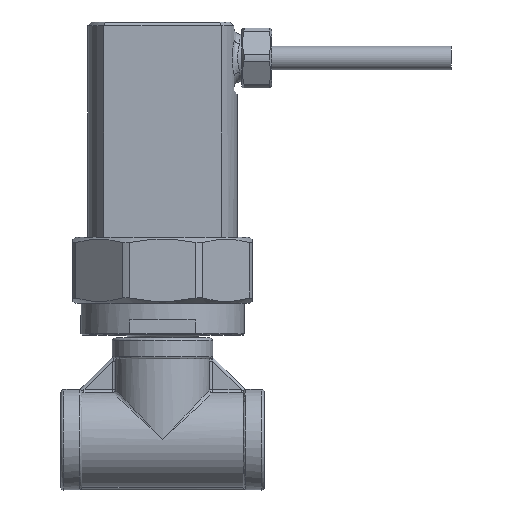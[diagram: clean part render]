
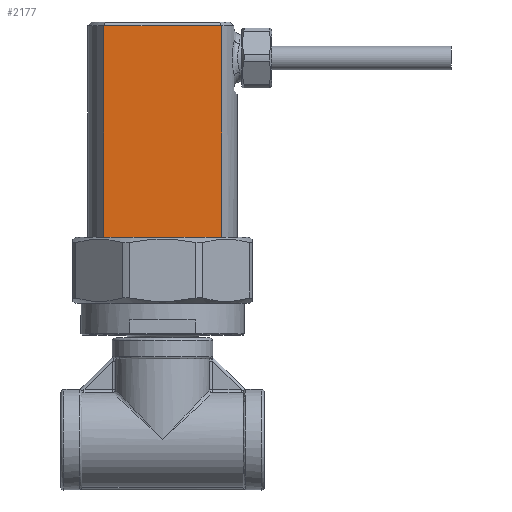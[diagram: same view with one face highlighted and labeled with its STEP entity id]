
A CAD part, top view. The second image highlights one B-rep face of the part: STEP entity #2177.
In plain terms, the highlighted planar face has unit normal (0, 0, 1).
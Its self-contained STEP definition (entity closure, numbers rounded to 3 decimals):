
#1444=PLANE('',#5120);
#1551=FACE_OUTER_BOUND('',#2538,.T.);
#1712=LINE('',#6345,#1937);
#1719=LINE('',#6376,#1944);
#1723=LINE('',#6584,#1948);
#1724=LINE('',#6586,#1949);
#1937=VECTOR('',#5442,1.);
#1944=VECTOR('',#5459,1.);
#1948=VECTOR('',#5489,1.);
#1949=VECTOR('',#5492,1.);
#2177=ADVANCED_FACE('',(#1551),#1444,.T.);
#2538=EDGE_LOOP('',(#2984,#2985,#2986,#2987));
#2984=ORIENTED_EDGE('',*,*,#4288,.T.);
#2985=ORIENTED_EDGE('',*,*,#4252,.T.);
#2986=ORIENTED_EDGE('',*,*,#4289,.F.);
#2987=ORIENTED_EDGE('',*,*,#4263,.T.);
#3909=VERTEX_POINT('',#6339);
#3912=VERTEX_POINT('',#6344);
#3921=VERTEX_POINT('',#6375);
#3922=VERTEX_POINT('',#6377);
#4252=EDGE_CURVE('',#3909,#3912,#1712,.T.);
#4263=EDGE_CURVE('',#3922,#3921,#1719,.T.);
#4288=EDGE_CURVE('',#3921,#3909,#1723,.T.);
#4289=EDGE_CURVE('',#3922,#3912,#1724,.T.);
#5120=AXIS2_PLACEMENT_3D('',#6587,#5493,#5494);
#5442=DIRECTION('',(0.,-1.,0.));
#5459=DIRECTION('',(0.,1.,0.));
#5489=DIRECTION('',(-1.,0.,0.));
#5492=DIRECTION('',(-1.,0.,0.));
#5493=DIRECTION('',(0.,0.,1.));
#5494=DIRECTION('',(1.,0.,0.));
#6339=CARTESIAN_POINT('',(-9.847,69.2,7.7));
#6344=CARTESIAN_POINT('',(-9.847,33.8,7.7));
#6345=CARTESIAN_POINT('',(-9.847,69.2,7.7));
#6375=CARTESIAN_POINT('',(9.847,69.2,7.7));
#6376=CARTESIAN_POINT('',(9.847,33.8,7.7));
#6377=CARTESIAN_POINT('',(9.847,33.8,7.7));
#6584=CARTESIAN_POINT('',(9.847,69.2,7.7));
#6586=CARTESIAN_POINT('',(9.847,33.8,7.7));
#6587=CARTESIAN_POINT('',(-9.847,33.8,7.7));
